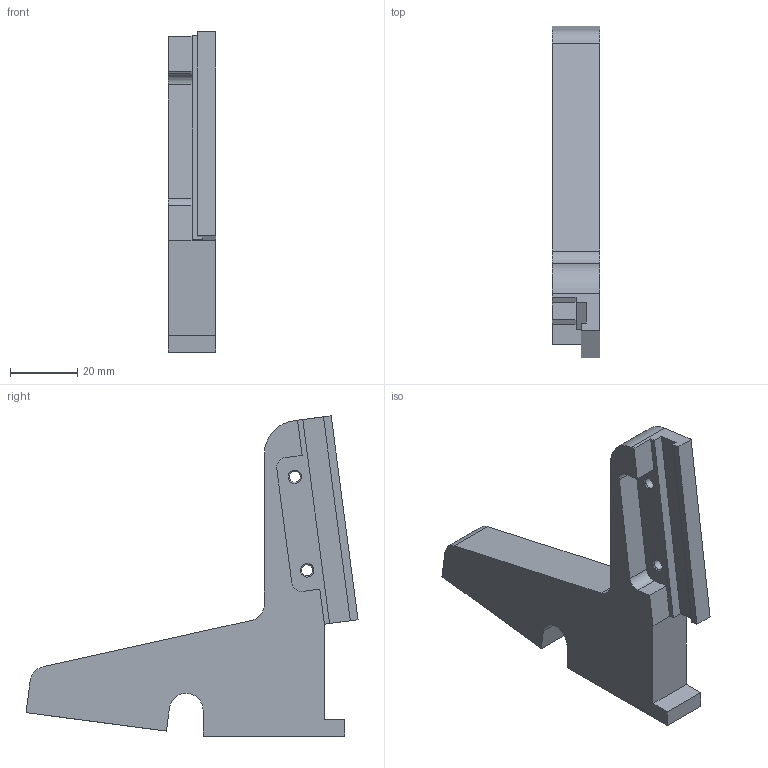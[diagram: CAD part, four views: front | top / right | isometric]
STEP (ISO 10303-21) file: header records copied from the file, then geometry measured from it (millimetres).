
FILE_DESCRIPTION(/* description */ (''),/* implementation_level */ '2;1');
FILE_NAME(/* name */ 'ASSY_STAVE_ONWHEELS_09.stp',/* time_stamp */ '2017-12-06T14:19:10+01:00',/* author */ (''),/* organization */ (''),/* preprocessor_version */ 'ST-DEVELOPER v16',/* originating_system */ 'SIEMENS PLM Software NX 10.0',/* authorisation */ '');
FILE_SCHEMA (('AP203_CONFIGURATION_CONTROLLED_3D_DESIGN_OF_MECHANICAL_PARTS_AND_ASSEMBLIES_MIM_LF { 1 0 10303 403 2 1 2}'));
Length unit declared in the file: millimetre
Products named in the file (1): turc1DB80072j4jf
Bounding box: 14 x 98.46 x 95 mm (x, y, z)
Volume: 42900.1 mm3; surface area: 13542.2 mm2
Topology: 1 solids, 1 shells, 59 faces, 167 edges, 112 vertices
Faces by surface type: plane 29, cylinder 16, cone 14
Full cylindrical faces by diameter (mm): 2.5 x4, 3.3 x2, 3.8 x1, 4 x1
Entity records: 1793 total; most frequent: DIRECTION 308, CARTESIAN_POINT 290, ORIENTED_EDGE 246, EDGE_CURVE 123, AXIS2_PLACEMENT_3D 113, VERTEX_POINT 95, EDGE_LOOP 87, LINE 82
